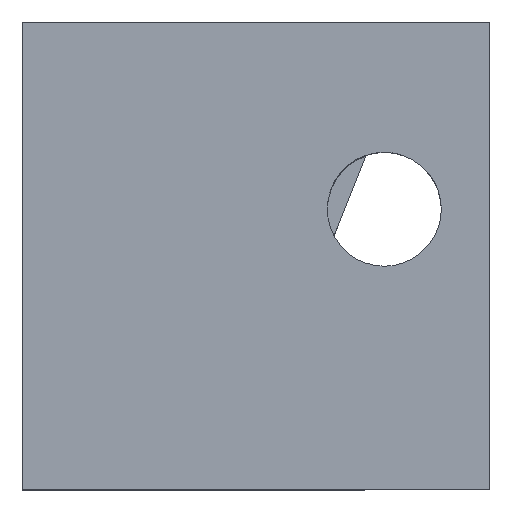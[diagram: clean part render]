
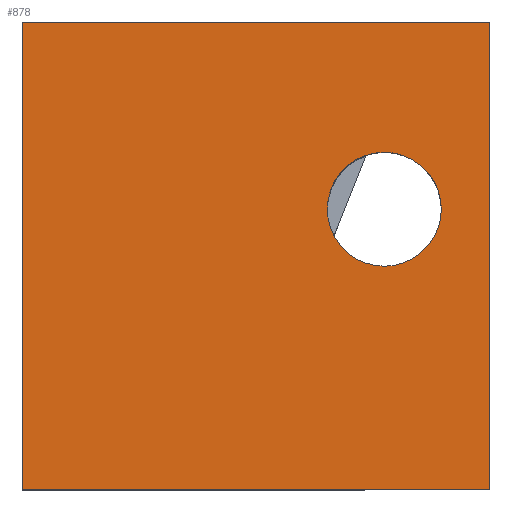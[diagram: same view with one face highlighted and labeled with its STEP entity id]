
A CAD part, top view. The second image highlights one B-rep face of the part: STEP entity #878.
In plain terms, the highlighted planar face has unit normal (0, 0, 1).
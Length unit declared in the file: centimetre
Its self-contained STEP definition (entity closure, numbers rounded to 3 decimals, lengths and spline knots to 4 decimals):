
#60 = FACE_OUTER_BOUND ( 'NONE', #1041, .T. ) ;
#84 = CARTESIAN_POINT ( 'NONE',  ( 896.6743, 599.1922, 1000. ) ) ;
#149 = DIRECTION ( 'NONE',  ( 1., 0., 0. ) ) ;
#155 = VECTOR ( 'NONE', #1704, 100. ) ;
#185 = DIRECTION ( 'NONE',  ( 0., 1., 0. ) ) ;
#217 = DIRECTION ( 'NONE',  ( 1., 0., 0. ) ) ;
#218 = AXIS2_PLACEMENT_3D ( 'NONE', #1139, #1721, #1602 ) ;
#221 = AXIS2_PLACEMENT_3D ( 'NONE', #976, #1461, #217 ) ;
#232 = ORIENTED_EDGE ( 'NONE', *, *, #1620, .F. ) ;
#313 = VERTEX_POINT ( 'NONE', #1593 ) ;
#348 = AXIS2_PLACEMENT_3D ( 'NONE', #779, #788, #763 ) ;
#411 = EDGE_LOOP ( 'NONE', ( #1806, #232 ) ) ;
#427 = LINE ( 'NONE', #1522, #1539 ) ;
#763 = DIRECTION ( 'NONE',  ( 1., 0., 0. ) ) ;
#779 = CARTESIAN_POINT ( 'NONE',  ( 774.6379, 599.1922, 1000. ) ) ;
#788 = DIRECTION ( 'NONE',  ( 0., 0., 1. ) ) ;
#817 = VECTOR ( 'NONE', #185, 100. ) ;
#837 = PLANE ( 'NONE',  #221 ) ;
#840 = CARTESIAN_POINT ( 'NONE',  ( 1000., 1000., 1000. ) ) ;
#841 = EDGE_CURVE ( 'NONE', #879, #1081, #1408, .T. ) ;
#878 = ADVANCED_FACE ( 'NONE', ( #1762, #60 ), #837, .T. ) ;
#879 = VERTEX_POINT ( 'NONE', #84 ) ;
#900 = ORIENTED_EDGE ( 'NONE', *, *, #1916, .T. ) ;
#913 = CARTESIAN_POINT ( 'NONE',  ( 0., 1000., 1000. ) ) ;
#917 = ORIENTED_EDGE ( 'NONE', *, *, #925, .T. ) ;
#925 = EDGE_CURVE ( 'NONE', #1044, #1061, #1547, .T. ) ;
#976 = CARTESIAN_POINT ( 'NONE',  ( 0., 0., 1000. ) ) ;
#1026 = CARTESIAN_POINT ( 'NONE',  ( 0., 0., 1000. ) ) ;
#1041 = EDGE_LOOP ( 'NONE', ( #917, #1050, #1643, #900 ) ) ;
#1044 = VERTEX_POINT ( 'NONE', #1166 ) ;
#1050 = ORIENTED_EDGE ( 'NONE', *, *, #1227, .T. ) ;
#1061 = VERTEX_POINT ( 'NONE', #1026 ) ;
#1081 = VERTEX_POINT ( 'NONE', #1473 ) ;
#1092 = VERTEX_POINT ( 'NONE', #840 ) ;
#1139 = CARTESIAN_POINT ( 'NONE',  ( 774.6379, 599.1922, 1000. ) ) ;
#1166 = CARTESIAN_POINT ( 'NONE',  ( 0., 1000., 1000. ) ) ;
#1217 = CARTESIAN_POINT ( 'NONE',  ( 0., 0., 1000. ) ) ;
#1227 = EDGE_CURVE ( 'NONE', #1061, #313, #1863, .T. ) ;
#1288 = LINE ( 'NONE', #1732, #817 ) ;
#1408 = CIRCLE ( 'NONE', #348, 122.0364 ) ;
#1420 = EDGE_CURVE ( 'NONE', #313, #1092, #1288, .T. ) ;
#1461 = DIRECTION ( 'NONE',  ( 0., 0., 1. ) ) ;
#1473 = CARTESIAN_POINT ( 'NONE',  ( 652.6014, 599.1922, 1000. ) ) ;
#1522 = CARTESIAN_POINT ( 'NONE',  ( 0., 1000., 1000. ) ) ;
#1534 = VECTOR ( 'NONE', #149, 100. ) ;
#1539 = VECTOR ( 'NONE', #1689, 100. ) ;
#1547 = LINE ( 'NONE', #913, #155 ) ;
#1593 = CARTESIAN_POINT ( 'NONE',  ( 1000., 0., 1000. ) ) ;
#1602 = DIRECTION ( 'NONE',  ( 1., 0., 0. ) ) ;
#1620 = EDGE_CURVE ( 'NONE', #1081, #879, #1628, .T. ) ;
#1628 = CIRCLE ( 'NONE', #218, 122.0364 ) ;
#1643 = ORIENTED_EDGE ( 'NONE', *, *, #1420, .T. ) ;
#1689 = DIRECTION ( 'NONE',  ( -1., 0., 0. ) ) ;
#1704 = DIRECTION ( 'NONE',  ( 0., -1., 0. ) ) ;
#1721 = DIRECTION ( 'NONE',  ( 0., 0., 1. ) ) ;
#1732 = CARTESIAN_POINT ( 'NONE',  ( 1000., 1000., 1000. ) ) ;
#1762 = FACE_BOUND ( 'NONE', #411, .T. ) ;
#1806 = ORIENTED_EDGE ( 'NONE', *, *, #841, .F. ) ;
#1863 = LINE ( 'NONE', #1217, #1534 ) ;
#1916 = EDGE_CURVE ( 'NONE', #1092, #1044, #427, .T. ) ;
